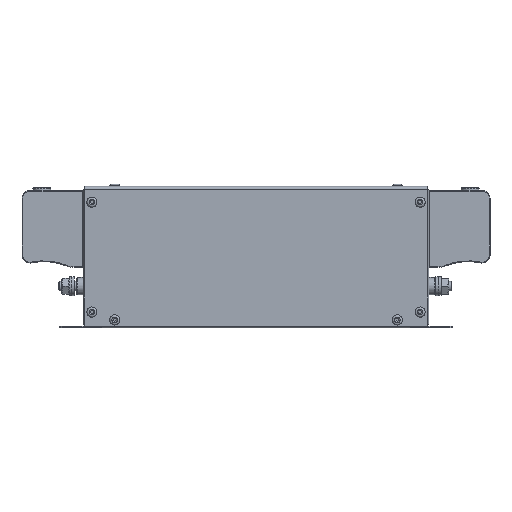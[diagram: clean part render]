
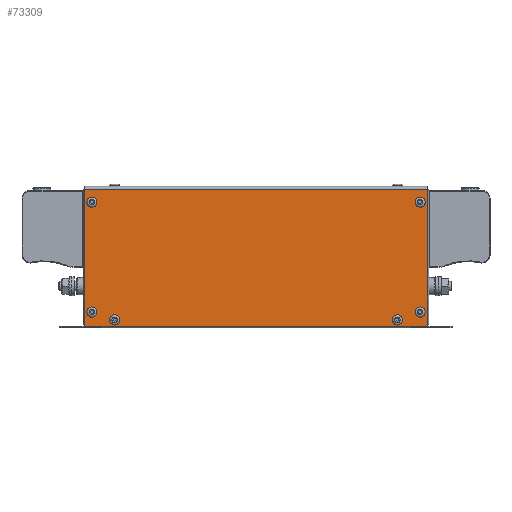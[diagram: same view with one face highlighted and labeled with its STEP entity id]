
A CAD part, front view. The second image highlights one B-rep face of the part: STEP entity #73309.
In plain terms, the highlighted planar face has unit normal (0, -1, 0).
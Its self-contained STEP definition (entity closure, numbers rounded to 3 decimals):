
#63597=CARTESIAN_POINT('',(-107.75,-42.5,10.));
#63598=VERTEX_POINT('',#63597);
#63599=CARTESIAN_POINT('',(-104.5,-42.5,10.));
#63600=DIRECTION('',(0.0,1.0,0.0));
#63601=DIRECTION('',(1.0,0.0,0.0));
#63602=AXIS2_PLACEMENT_3D('',#63599,#63600,#63601);
#63603=CIRCLE('',#63602,3.25);
#63604=EDGE_CURVE('',#63598,#63598,#63603,.T.);
#63893=CARTESIAN_POINT('',(-93.25,-42.5,5.));
#63894=VERTEX_POINT('',#63893);
#63895=CARTESIAN_POINT('',(-90.,-42.5,5.));
#63896=DIRECTION('',(0.0,1.0,0.0));
#63897=DIRECTION('',(1.0,0.0,0.0));
#63898=AXIS2_PLACEMENT_3D('',#63895,#63896,#63897);
#63899=CIRCLE('',#63898,3.25);
#63900=EDGE_CURVE('',#63894,#63894,#63899,.T.);
#64189=CARTESIAN_POINT('',(-107.75,-42.5,80.));
#64190=VERTEX_POINT('',#64189);
#64191=CARTESIAN_POINT('',(-104.5,-42.5,80.));
#64192=DIRECTION('',(0.0,1.0,0.0));
#64193=DIRECTION('',(1.0,0.0,0.0));
#64194=AXIS2_PLACEMENT_3D('',#64191,#64192,#64193);
#64195=CIRCLE('',#64194,3.25);
#64196=EDGE_CURVE('',#64190,#64190,#64195,.T.);
#64485=CARTESIAN_POINT('',(101.25,-42.5,80.));
#64486=VERTEX_POINT('',#64485);
#64487=CARTESIAN_POINT('',(104.5,-42.5,80.));
#64488=DIRECTION('',(0.0,1.0,0.0));
#64489=DIRECTION('',(1.0,0.0,0.0));
#64490=AXIS2_PLACEMENT_3D('',#64487,#64488,#64489);
#64491=CIRCLE('',#64490,3.25);
#64492=EDGE_CURVE('',#64486,#64486,#64491,.T.);
#64781=CARTESIAN_POINT('',(86.75,-42.5,5.));
#64782=VERTEX_POINT('',#64781);
#64783=CARTESIAN_POINT('',(90.,-42.5,5.));
#64784=DIRECTION('',(0.0,1.0,0.0));
#64785=DIRECTION('',(1.0,0.0,0.0));
#64786=AXIS2_PLACEMENT_3D('',#64783,#64784,#64785);
#64787=CIRCLE('',#64786,3.25);
#64788=EDGE_CURVE('',#64782,#64782,#64787,.T.);
#65077=CARTESIAN_POINT('',(101.25,-42.5,10.));
#65078=VERTEX_POINT('',#65077);
#65079=CARTESIAN_POINT('',(104.5,-42.5,10.));
#65080=DIRECTION('',(0.0,1.0,0.0));
#65081=DIRECTION('',(1.0,0.0,0.0));
#65082=AXIS2_PLACEMENT_3D('',#65079,#65080,#65081);
#65083=CIRCLE('',#65082,3.25);
#65084=EDGE_CURVE('',#65078,#65078,#65083,.T.);
#72821=CARTESIAN_POINT('',(-109.5,-42.5,1.));
#72822=VERTEX_POINT('',#72821);
#72829=CARTESIAN_POINT('',(-109.5,-42.5,88.2));
#72830=VERTEX_POINT('',#72829);
#72831=CARTESIAN_POINT('',(-109.5,-42.5,1.));
#72832=DIRECTION('',(0.0,0.0,1.0));
#72833=VECTOR('',#72832,87.2);
#72834=LINE('',#72831,#72833);
#72835=EDGE_CURVE('',#72822,#72830,#72834,.T.);
#73211=CARTESIAN_POINT('',(109.5,-42.5,88.2));
#73212=VERTEX_POINT('',#73211);
#73220=CARTESIAN_POINT('',(109.5,-42.5,1.));
#73221=VERTEX_POINT('',#73220);
#73222=CARTESIAN_POINT('',(109.5,-42.5,88.2));
#73223=DIRECTION('',(0.0,0.0,-1.0));
#73224=VECTOR('',#73223,87.2);
#73225=LINE('',#73222,#73224);
#73226=EDGE_CURVE('',#73212,#73221,#73225,.T.);
#73253=CARTESIAN_POINT('',(109.5,-42.5,88.2));
#73254=DIRECTION('',(-1.0,0.0,0.0));
#73255=VECTOR('',#73254,219.0);
#73256=LINE('',#73253,#73255);
#73257=EDGE_CURVE('',#73212,#72830,#73256,.T.);
#73275=CARTESIAN_POINT('',(0.,-42.5,45.));
#73276=DIRECTION('',(0.0,-1.0,0.0));
#73277=DIRECTION('',(0.0,0.0,-1.0));
#73278=AXIS2_PLACEMENT_3D('',#73275,#73276,#73277);
#73279=PLANE('',#73278);
#73280=ORIENTED_EDGE('',*,*,#73257,.T.);
#73281=ORIENTED_EDGE('',*,*,#72835,.F.);
#73282=CARTESIAN_POINT('',(109.5,-42.5,1.));
#73283=DIRECTION('',(-1.0,0.0,0.0));
#73284=VECTOR('',#73283,219.0);
#73285=LINE('',#73282,#73284);
#73286=EDGE_CURVE('',#73221,#72822,#73285,.T.);
#73287=ORIENTED_EDGE('',*,*,#73286,.F.);
#73288=ORIENTED_EDGE('',*,*,#73226,.F.);
#73289=EDGE_LOOP('',(#73280,#73281,#73287,#73288));
#73290=FACE_OUTER_BOUND('',#73289,.T.);
#73291=ORIENTED_EDGE('',*,*,#63604,.T.);
#73292=EDGE_LOOP('',(#73291));
#73293=FACE_BOUND('',#73292,.T.);
#73294=ORIENTED_EDGE('',*,*,#63900,.T.);
#73295=EDGE_LOOP('',(#73294));
#73296=FACE_BOUND('',#73295,.T.);
#73297=ORIENTED_EDGE('',*,*,#64196,.T.);
#73298=EDGE_LOOP('',(#73297));
#73299=FACE_BOUND('',#73298,.T.);
#73300=ORIENTED_EDGE('',*,*,#64492,.T.);
#73301=EDGE_LOOP('',(#73300));
#73302=FACE_BOUND('',#73301,.T.);
#73303=ORIENTED_EDGE('',*,*,#64788,.T.);
#73304=EDGE_LOOP('',(#73303));
#73305=FACE_BOUND('',#73304,.T.);
#73306=ORIENTED_EDGE('',*,*,#65084,.T.);
#73307=EDGE_LOOP('',(#73306));
#73308=FACE_BOUND('',#73307,.T.);
#73309=ADVANCED_FACE('',(#73290,#73293,#73296,#73299,#73302,#73305,#73308),#73279,.T.);
